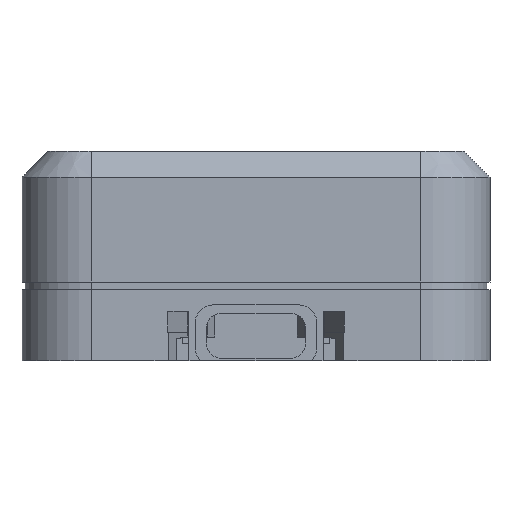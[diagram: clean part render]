
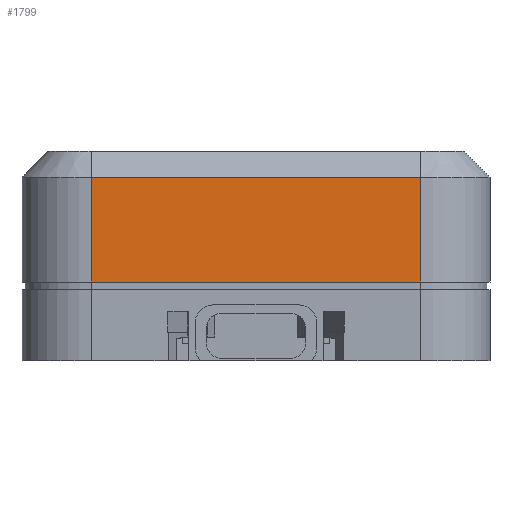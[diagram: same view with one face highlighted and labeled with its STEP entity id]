
A CAD part, front view. The second image highlights one B-rep face of the part: STEP entity #1799.
In plain terms, the highlighted planar face has unit normal (0, -1, 0).
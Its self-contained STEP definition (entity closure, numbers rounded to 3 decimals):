
#195 = PLANE('',#196);
#196 = AXIS2_PLACEMENT_3D('',#197,#198,#199);
#197 = CARTESIAN_POINT('',(19.,-22.5,25.1));
#198 = DIRECTION('',(0.,0.707,-0.707)
  );
#199 = DIRECTION('',(1.,0.,0.));
#793 = VERTEX_POINT('',#794);
#794 = CARTESIAN_POINT('',(19.,-24.,23.6));
#828 = CYLINDRICAL_SURFACE('',#829,8.);
#829 = AXIS2_PLACEMENT_3D('',#830,#831,#832);
#830 = CARTESIAN_POINT('',(19.,-16.,2.4));
#831 = DIRECTION('',(0.,0.,1.));
#832 = DIRECTION('',(1.,0.,-0.));
#846 = VERTEX_POINT('',#847);
#847 = CARTESIAN_POINT('',(-19.,-24.,23.6));
#866 = EDGE_CURVE('',#793,#846,#867,.T.);
#867 = SURFACE_CURVE('',#868,(#872,#879),.PCURVE_S1.);
#868 = LINE('',#869,#870);
#869 = CARTESIAN_POINT('',(19.,-24.,23.6));
#870 = VECTOR('',#871,1.);
#871 = DIRECTION('',(-1.,-0.,-0.));
#872 = PCURVE('',#195,#873);
#873 = DEFINITIONAL_REPRESENTATION('',(#874),#878);
#874 = LINE('',#875,#876);
#875 = CARTESIAN_POINT('',(-0.,2.121));
#876 = VECTOR('',#877,1.);
#877 = DIRECTION('',(-1.,0.));
#878 = ( GEOMETRIC_REPRESENTATION_CONTEXT(2) 
PARAMETRIC_REPRESENTATION_CONTEXT() REPRESENTATION_CONTEXT('2D SPACE',''
  ) );
#879 = PCURVE('',#880,#885);
#880 = PLANE('',#881);
#881 = AXIS2_PLACEMENT_3D('',#882,#883,#884);
#882 = CARTESIAN_POINT('',(-27.,-24.,2.4));
#883 = DIRECTION('',(0.,1.,0.));
#884 = DIRECTION('',(0.,0.,1.));
#885 = DEFINITIONAL_REPRESENTATION('',(#886),#890);
#886 = LINE('',#887,#888);
#887 = CARTESIAN_POINT('',(21.2,46.));
#888 = VECTOR('',#889,1.);
#889 = DIRECTION('',(0.,-1.));
#890 = ( GEOMETRIC_REPRESENTATION_CONTEXT(2) 
PARAMETRIC_REPRESENTATION_CONTEXT() REPRESENTATION_CONTEXT('2D SPACE',''
  ) );
#973 = CYLINDRICAL_SURFACE('',#974,8.);
#974 = AXIS2_PLACEMENT_3D('',#975,#976,#977);
#975 = CARTESIAN_POINT('',(-19.,-16.,2.4));
#976 = DIRECTION('',(0.,0.,1.));
#977 = DIRECTION('',(-1.,-0.,0.));
#1572 = PLANE('',#1573);
#1573 = AXIS2_PLACEMENT_3D('',#1574,#1575,#1576);
#1574 = CARTESIAN_POINT('',(-27.5,-24.5,11.5));
#1575 = DIRECTION('',(0.,0.,1.));
#1576 = DIRECTION('',(1.,0.,0.));
#1755 = VERTEX_POINT('',#1756);
#1756 = CARTESIAN_POINT('',(19.,-24.,11.5));
#1778 = EDGE_CURVE('',#1755,#793,#1779,.T.);
#1779 = SURFACE_CURVE('',#1780,(#1784,#1791),.PCURVE_S1.);
#1780 = LINE('',#1781,#1782);
#1781 = CARTESIAN_POINT('',(19.,-24.,2.4));
#1782 = VECTOR('',#1783,1.);
#1783 = DIRECTION('',(0.,0.,1.));
#1784 = PCURVE('',#828,#1785);
#1785 = DEFINITIONAL_REPRESENTATION('',(#1786),#1790);
#1786 = LINE('',#1787,#1788);
#1787 = CARTESIAN_POINT('',(-1.571,0.));
#1788 = VECTOR('',#1789,1.);
#1789 = DIRECTION('',(-0.,1.));
#1790 = ( GEOMETRIC_REPRESENTATION_CONTEXT(2) 
PARAMETRIC_REPRESENTATION_CONTEXT() REPRESENTATION_CONTEXT('2D SPACE',''
  ) );
#1791 = PCURVE('',#880,#1792);
#1792 = DEFINITIONAL_REPRESENTATION('',(#1793),#1797);
#1793 = LINE('',#1794,#1795);
#1794 = CARTESIAN_POINT('',(0.,46.));
#1795 = VECTOR('',#1796,1.);
#1796 = DIRECTION('',(1.,0.));
#1797 = ( GEOMETRIC_REPRESENTATION_CONTEXT(2) 
PARAMETRIC_REPRESENTATION_CONTEXT() REPRESENTATION_CONTEXT('2D SPACE',''
  ) );
#1799 = ADVANCED_FACE('',(#1800),#880,.F.);
#1800 = FACE_BOUND('',#1801,.F.);
#1801 = EDGE_LOOP('',(#1802,#1823,#1844,#1845));
#1802 = ORIENTED_EDGE('',*,*,#1803,.F.);
#1803 = EDGE_CURVE('',#1804,#1755,#1806,.T.);
#1804 = VERTEX_POINT('',#1805);
#1805 = CARTESIAN_POINT('',(-19.,-24.,11.5));
#1806 = SURFACE_CURVE('',#1807,(#1811,#1817),.PCURVE_S1.);
#1807 = LINE('',#1808,#1809);
#1808 = CARTESIAN_POINT('',(-27.25,-24.,11.5));
#1809 = VECTOR('',#1810,1.);
#1810 = DIRECTION('',(1.,0.,0.));
#1811 = PCURVE('',#880,#1812);
#1812 = DEFINITIONAL_REPRESENTATION('',(#1813),#1816);
#1813 = B_SPLINE_CURVE_WITH_KNOTS('',1,(#1814,#1815),.UNSPECIFIED.,.F.,
  .F.,(2,2),(8.25,46.25),.PIECEWISE_BEZIER_KNOTS.);
#1814 = CARTESIAN_POINT('',(9.1,8.));
#1815 = CARTESIAN_POINT('',(9.1,46.));
#1816 = ( GEOMETRIC_REPRESENTATION_CONTEXT(2) 
PARAMETRIC_REPRESENTATION_CONTEXT() REPRESENTATION_CONTEXT('2D SPACE',''
  ) );
#1817 = PCURVE('',#1572,#1818);
#1818 = DEFINITIONAL_REPRESENTATION('',(#1819),#1822);
#1819 = B_SPLINE_CURVE_WITH_KNOTS('',1,(#1820,#1821),.UNSPECIFIED.,.F.,
  .F.,(2,2),(8.25,46.25),.PIECEWISE_BEZIER_KNOTS.);
#1820 = CARTESIAN_POINT('',(8.5,0.5));
#1821 = CARTESIAN_POINT('',(46.5,0.5));
#1822 = ( GEOMETRIC_REPRESENTATION_CONTEXT(2) 
PARAMETRIC_REPRESENTATION_CONTEXT() REPRESENTATION_CONTEXT('2D SPACE',''
  ) );
#1823 = ORIENTED_EDGE('',*,*,#1824,.T.);
#1824 = EDGE_CURVE('',#1804,#846,#1825,.T.);
#1825 = SURFACE_CURVE('',#1826,(#1830,#1837),.PCURVE_S1.);
#1826 = LINE('',#1827,#1828);
#1827 = CARTESIAN_POINT('',(-19.,-24.,2.4));
#1828 = VECTOR('',#1829,1.);
#1829 = DIRECTION('',(0.,0.,1.));
#1830 = PCURVE('',#880,#1831);
#1831 = DEFINITIONAL_REPRESENTATION('',(#1832),#1836);
#1832 = LINE('',#1833,#1834);
#1833 = CARTESIAN_POINT('',(0.,8.));
#1834 = VECTOR('',#1835,1.);
#1835 = DIRECTION('',(1.,0.));
#1836 = ( GEOMETRIC_REPRESENTATION_CONTEXT(2) 
PARAMETRIC_REPRESENTATION_CONTEXT() REPRESENTATION_CONTEXT('2D SPACE',''
  ) );
#1837 = PCURVE('',#973,#1838);
#1838 = DEFINITIONAL_REPRESENTATION('',(#1839),#1843);
#1839 = LINE('',#1840,#1841);
#1840 = CARTESIAN_POINT('',(1.571,0.));
#1841 = VECTOR('',#1842,1.);
#1842 = DIRECTION('',(0.,1.));
#1843 = ( GEOMETRIC_REPRESENTATION_CONTEXT(2) 
PARAMETRIC_REPRESENTATION_CONTEXT() REPRESENTATION_CONTEXT('2D SPACE',''
  ) );
#1844 = ORIENTED_EDGE('',*,*,#866,.F.);
#1845 = ORIENTED_EDGE('',*,*,#1778,.F.);
